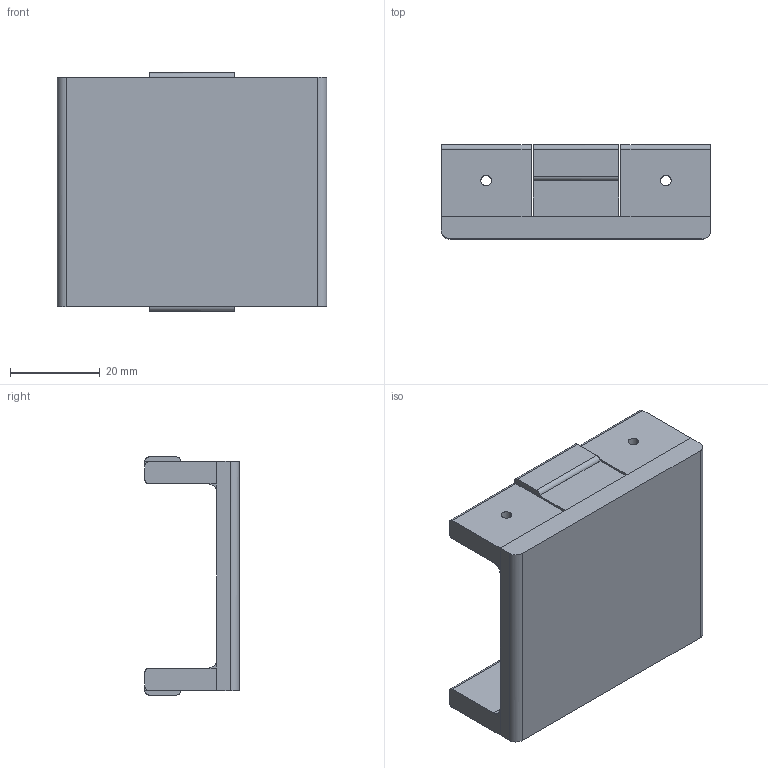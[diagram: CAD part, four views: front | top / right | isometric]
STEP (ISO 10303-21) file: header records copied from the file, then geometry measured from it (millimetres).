
FILE_DESCRIPTION(/* description */ (''),/* implementation_level */ '2;1');
FILE_NAME(/* name */ 'GRIPPE~1',/* time_stamp */ '2016-10-07T09:09:50-04:00',/* author */ (''),/* organization */ (''),/* preprocessor_version */ 'ST-DEVELOPER v15',/* originating_system */ '',/* authorisation */ '');
FILE_SCHEMA (('AUTOMOTIVE_DESIGN'));
Length unit declared in the file: millimetre
Products named in the file (1): Document
Bounding box: 60 x 21 x 53 mm (x, y, z)
Volume: 23084.7 mm3; surface area: 11691.6 mm2
Topology: 1 solids, 1 shells, 88 faces, 222 edges, 136 vertices
Faces by surface type: plane 58, bspline 30
Entity records: 2382 total; most frequent: CARTESIAN_POINT 944, ORIENTED_EDGE 444, EDGE_CURVE 222, B_SPLINE_CURVE_WITH_KNOTS 148, VERTEX_POINT 136, EDGE_LOOP 96, ADVANCED_FACE 88, FACE_OUTER_BOUND 88
